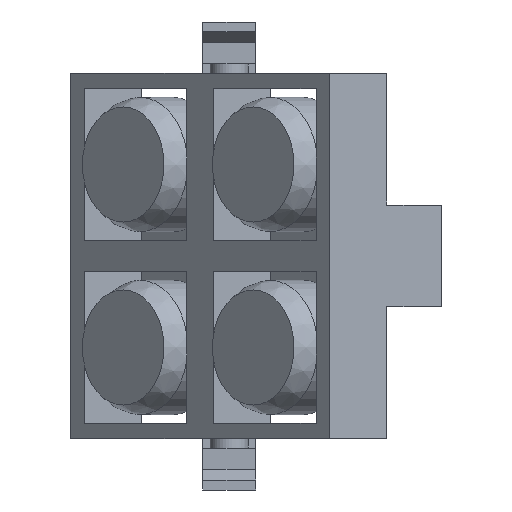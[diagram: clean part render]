
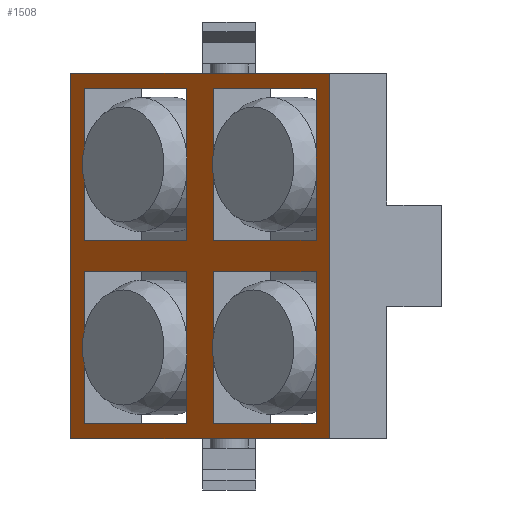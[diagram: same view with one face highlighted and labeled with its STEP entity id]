
A CAD part, front view. The second image highlights one B-rep face of the part: STEP entity #1508.
In plain terms, the highlighted planar face has unit normal (-0.707, -0.707, 0) as drawn and (-1, 0, 0) by its records, which use the part's own axes.
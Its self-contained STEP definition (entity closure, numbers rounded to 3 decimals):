
#93=FACE_BOUND('',#228,.T.);
#94=FACE_BOUND('',#229,.T.);
#95=FACE_BOUND('',#230,.T.);
#96=FACE_BOUND('',#231,.T.);
#140=FACE_OUTER_BOUND('',#227,.T.);
#227=EDGE_LOOP('',(#1186,#1187,#1188,#1189));
#228=EDGE_LOOP('',(#1190,#1191,#1192,#1193));
#229=EDGE_LOOP('',(#1194,#1195,#1196,#1197));
#230=EDGE_LOOP('',(#1198,#1199,#1200,#1201));
#231=EDGE_LOOP('',(#1202,#1203,#1204,#1205));
#357=LINE('',#2337,#529);
#360=LINE('',#2342,#532);
#362=LINE('',#2346,#534);
#364=LINE('',#2349,#536);
#365=LINE('',#2353,#537);
#368=LINE('',#2358,#540);
#370=LINE('',#2362,#542);
#372=LINE('',#2365,#544);
#374=LINE('',#2370,#546);
#376=LINE('',#2375,#548);
#379=LINE('',#2380,#551);
#381=LINE('',#2384,#553);
#383=LINE('',#2387,#555);
#385=LINE('',#2391,#557);
#386=LINE('',#2395,#558);
#389=LINE('',#2400,#561);
#391=LINE('',#2404,#563);
#393=LINE('',#2407,#565);
#394=LINE('',#2410,#566);
#395=LINE('',#2411,#567);
#529=VECTOR('',#1888,10.);
#532=VECTOR('',#1893,10.);
#534=VECTOR('',#1897,10.);
#536=VECTOR('',#1901,10.);
#537=VECTOR('',#1904,10.);
#540=VECTOR('',#1909,10.);
#542=VECTOR('',#1913,10.);
#544=VECTOR('',#1917,10.);
#546=VECTOR('',#1921,10.);
#548=VECTOR('',#1925,10.);
#551=VECTOR('',#1930,10.);
#553=VECTOR('',#1934,10.);
#555=VECTOR('',#1938,10.);
#557=VECTOR('',#1942,10.);
#558=VECTOR('',#1945,10.);
#561=VECTOR('',#1950,10.);
#563=VECTOR('',#1954,10.);
#565=VECTOR('',#1958,10.);
#566=VECTOR('',#1961,10.);
#567=VECTOR('',#1962,10.);
#683=VERTEX_POINT('',#2335);
#684=VERTEX_POINT('',#2336);
#685=VERTEX_POINT('',#2341);
#686=VERTEX_POINT('',#2345);
#687=VERTEX_POINT('',#2351);
#688=VERTEX_POINT('',#2352);
#689=VERTEX_POINT('',#2357);
#690=VERTEX_POINT('',#2361);
#691=VERTEX_POINT('',#2367);
#692=VERTEX_POINT('',#2369);
#693=VERTEX_POINT('',#2373);
#694=VERTEX_POINT('',#2374);
#695=VERTEX_POINT('',#2379);
#696=VERTEX_POINT('',#2383);
#697=VERTEX_POINT('',#2389);
#698=VERTEX_POINT('',#2393);
#699=VERTEX_POINT('',#2394);
#700=VERTEX_POINT('',#2399);
#701=VERTEX_POINT('',#2403);
#702=VERTEX_POINT('',#2409);
#845=EDGE_CURVE('',#683,#684,#357,.T.);
#848=EDGE_CURVE('',#685,#683,#360,.T.);
#850=EDGE_CURVE('',#686,#685,#362,.T.);
#852=EDGE_CURVE('',#684,#686,#364,.T.);
#853=EDGE_CURVE('',#687,#688,#365,.T.);
#856=EDGE_CURVE('',#689,#687,#368,.T.);
#858=EDGE_CURVE('',#690,#689,#370,.T.);
#860=EDGE_CURVE('',#688,#690,#372,.T.);
#862=EDGE_CURVE('',#692,#691,#374,.T.);
#864=EDGE_CURVE('',#693,#694,#376,.T.);
#867=EDGE_CURVE('',#695,#693,#379,.T.);
#869=EDGE_CURVE('',#696,#695,#381,.T.);
#871=EDGE_CURVE('',#694,#696,#383,.T.);
#873=EDGE_CURVE('',#697,#691,#385,.T.);
#874=EDGE_CURVE('',#698,#699,#386,.T.);
#877=EDGE_CURVE('',#700,#698,#389,.T.);
#879=EDGE_CURVE('',#701,#700,#391,.T.);
#881=EDGE_CURVE('',#699,#701,#393,.T.);
#882=EDGE_CURVE('',#702,#692,#394,.T.);
#883=EDGE_CURVE('',#702,#697,#395,.T.);
#1186=ORIENTED_EDGE('',*,*,#882,.T.);
#1187=ORIENTED_EDGE('',*,*,#862,.T.);
#1188=ORIENTED_EDGE('',*,*,#873,.F.);
#1189=ORIENTED_EDGE('',*,*,#883,.F.);
#1190=ORIENTED_EDGE('',*,*,#853,.F.);
#1191=ORIENTED_EDGE('',*,*,#856,.F.);
#1192=ORIENTED_EDGE('',*,*,#858,.F.);
#1193=ORIENTED_EDGE('',*,*,#860,.F.);
#1194=ORIENTED_EDGE('',*,*,#845,.T.);
#1195=ORIENTED_EDGE('',*,*,#852,.T.);
#1196=ORIENTED_EDGE('',*,*,#850,.T.);
#1197=ORIENTED_EDGE('',*,*,#848,.T.);
#1198=ORIENTED_EDGE('',*,*,#864,.F.);
#1199=ORIENTED_EDGE('',*,*,#867,.F.);
#1200=ORIENTED_EDGE('',*,*,#869,.F.);
#1201=ORIENTED_EDGE('',*,*,#871,.F.);
#1202=ORIENTED_EDGE('',*,*,#874,.T.);
#1203=ORIENTED_EDGE('',*,*,#881,.T.);
#1204=ORIENTED_EDGE('',*,*,#879,.T.);
#1205=ORIENTED_EDGE('',*,*,#877,.T.);
#1437=PLANE('',#1676);
#1508=ADVANCED_FACE('',(#140,#93,#94,#95,#96),#1437,.T.);
#1676=AXIS2_PLACEMENT_3D('',#2408,#1959,#1960);
#1888=DIRECTION('',(0.,1.,0.));
#1893=DIRECTION('',(0.,0.,-1.));
#1897=DIRECTION('',(0.,-1.,0.));
#1901=DIRECTION('',(0.,0.,1.));
#1904=DIRECTION('',(0.,-1.,0.));
#1909=DIRECTION('',(0.,0.,-1.));
#1913=DIRECTION('',(0.,1.,0.));
#1917=DIRECTION('',(0.,0.,1.));
#1921=DIRECTION('',(0.,-1.,0.));
#1925=DIRECTION('',(0.,1.,0.));
#1930=DIRECTION('',(0.,0.,1.));
#1934=DIRECTION('',(0.,-1.,0.));
#1938=DIRECTION('',(0.,0.,-1.));
#1942=DIRECTION('',(0.,0.,-1.));
#1945=DIRECTION('',(0.,-1.,0.));
#1950=DIRECTION('',(0.,0.,1.));
#1954=DIRECTION('',(0.,1.,0.));
#1958=DIRECTION('',(0.,0.,-1.));
#1959=DIRECTION('center_axis',(-1.,0.,0.));
#1960=DIRECTION('ref_axis',(0.,0.,1.));
#1961=DIRECTION('',(0.,0.,-1.));
#1962=DIRECTION('',(0.,-1.,0.));
#2335=CARTESIAN_POINT('',(-46.3,-170.338,-173.692));
#2336=CARTESIAN_POINT('',(-46.3,-19.703,-173.692));
#2337=CARTESIAN_POINT('',(-46.3,-132.669,-173.692));
#2341=CARTESIAN_POINT('',(-46.3,-170.338,-16.293));
#2342=CARTESIAN_POINT('',(-46.3,-170.338,-55.646));
#2345=CARTESIAN_POINT('',(-46.3,-19.703,-16.293));
#2346=CARTESIAN_POINT('',(-46.3,-57.351,-16.293));
#2349=CARTESIAN_POINT('',(-46.3,-19.703,-134.346));
#2351=CARTESIAN_POINT('',(-46.3,170.338,-173.692));
#2352=CARTESIAN_POINT('',(-46.3,19.703,-173.692));
#2353=CARTESIAN_POINT('',(-46.3,132.669,-173.692));
#2357=CARTESIAN_POINT('',(-46.3,170.338,-16.293));
#2358=CARTESIAN_POINT('',(-46.3,170.338,-55.646));
#2361=CARTESIAN_POINT('',(-46.3,19.703,-16.293));
#2362=CARTESIAN_POINT('',(-46.3,57.351,-16.293));
#2365=CARTESIAN_POINT('',(-46.3,19.703,-134.346));
#2367=CARTESIAN_POINT('',(-46.3,-190.,-190.));
#2369=CARTESIAN_POINT('',(-46.3,190.,-190.));
#2370=CARTESIAN_POINT('',(-46.3,142.5,-190.));
#2373=CARTESIAN_POINT('',(-46.3,-170.338,173.692));
#2374=CARTESIAN_POINT('',(-46.3,-19.703,173.692));
#2375=CARTESIAN_POINT('',(-46.3,-132.669,173.692));
#2379=CARTESIAN_POINT('',(-46.3,-170.338,16.293));
#2380=CARTESIAN_POINT('',(-46.3,-170.338,55.646));
#2383=CARTESIAN_POINT('',(-46.3,-19.703,16.293));
#2384=CARTESIAN_POINT('',(-46.3,-57.351,16.293));
#2387=CARTESIAN_POINT('',(-46.3,-19.703,134.346));
#2389=CARTESIAN_POINT('',(-46.3,-190.,190.));
#2391=CARTESIAN_POINT('',(-46.3,-190.,47.5));
#2393=CARTESIAN_POINT('',(-46.3,170.338,173.692));
#2394=CARTESIAN_POINT('',(-46.3,19.703,173.692));
#2395=CARTESIAN_POINT('',(-46.3,132.669,173.692));
#2399=CARTESIAN_POINT('',(-46.3,170.338,16.293));
#2400=CARTESIAN_POINT('',(-46.3,170.338,55.646));
#2403=CARTESIAN_POINT('',(-46.3,19.703,16.293));
#2404=CARTESIAN_POINT('',(-46.3,57.351,16.293));
#2407=CARTESIAN_POINT('',(-46.3,19.703,134.346));
#2408=CARTESIAN_POINT('Origin',(-46.3,95.,95.));
#2409=CARTESIAN_POINT('',(-46.3,190.,190.));
#2410=CARTESIAN_POINT('',(-46.3,190.,47.5));
#2411=CARTESIAN_POINT('',(-46.3,142.5,190.));
